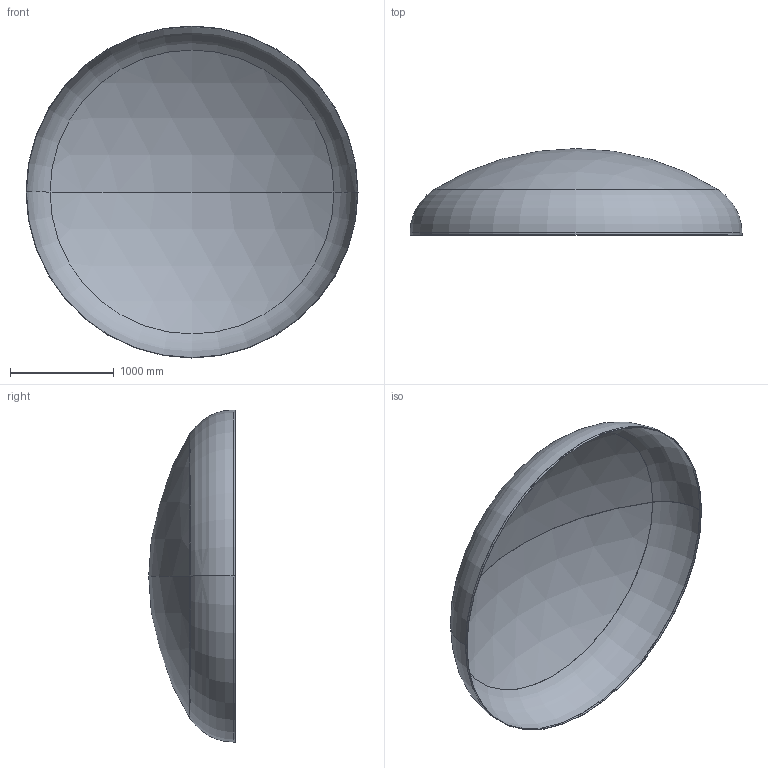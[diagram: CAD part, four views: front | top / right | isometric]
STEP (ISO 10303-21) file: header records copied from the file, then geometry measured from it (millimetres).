
FILE_DESCRIPTION (( 'STEP AP203' ), '1' );
FILE_NAME ('DIN 28013 Korbbogenform_-_Boden DIN 28013 - 3200 x 20 - I - s=3.step', '2016-07-01T18:13:39', ( '' ), ( '' ), 'SwSTEP 2.0', 'SolidWorks 2013', '' );
FILE_SCHEMA (( 'CONFIG_CONTROL_DESIGN' ));
Length unit declared in the file: millimetre
Products named in the file (1): DIN 28013 Korbbogenform_-_Boden DIN 28013 - 3200 x 20 - I - s=3
Bounding box: 3200 x 833.87 x 3200 mm (x, y, z)
Volume: 33944550.1 mm3; surface area: 22659840.5 mm2
Topology: 1 solids, 1 shells, 13 faces, 24 edges, 14 vertices
Faces by surface type: torus 4, cylinder 4, sphere 4, plane 1
Entity records: 407 total; most frequent: DIRECTION 72, CARTESIAN_POINT 52, ORIENTED_EDGE 48, AXIS2_PLACEMENT_3D 34, EDGE_CURVE 24, CIRCLE 20, VERTEX_POINT 14, EDGE_LOOP 14
